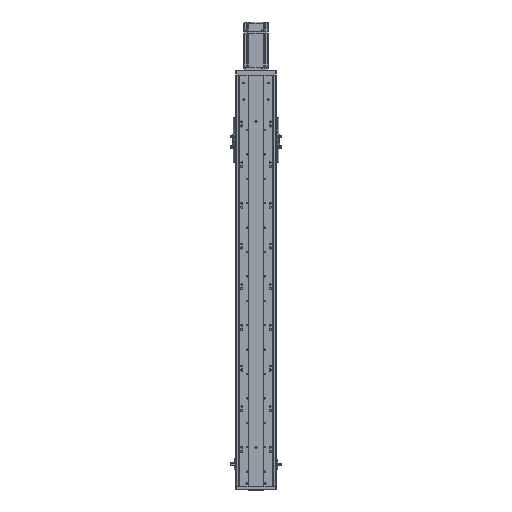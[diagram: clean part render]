
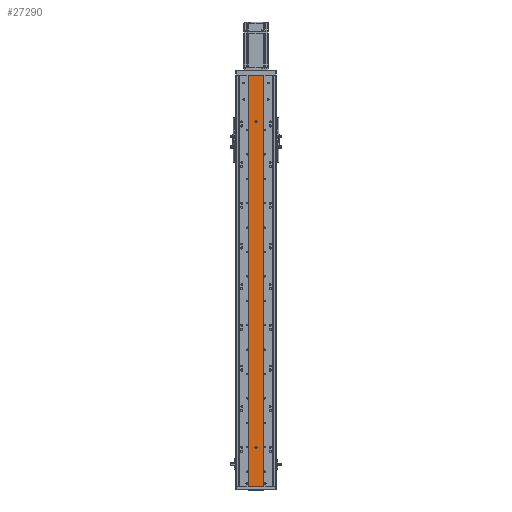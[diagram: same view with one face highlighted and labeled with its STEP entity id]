
A CAD part, top view. The second image highlights one B-rep face of the part: STEP entity #27290.
In plain terms, the highlighted planar face has unit normal (0, 0, 1).
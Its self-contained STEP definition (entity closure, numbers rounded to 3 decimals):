
#402 = CIRCLE ( 'NONE', #37312, 2.5 ) ;
#417 = CIRCLE ( 'NONE', #37303, 2.5 ) ;
#712 = CARTESIAN_POINT ( 'NONE',  ( -10645.079, 1012., -17040.86 ) ) ;
#723 = PLANE ( 'NONE',  #37065 ) ;
#736 = DIRECTION ( 'NONE',  ( 0., 0., -1. ) ) ;
#751 = DIRECTION ( 'NONE',  ( -1., 0., 0. ) ) ;
#5461 = CARTESIAN_POINT ( 'NONE',  ( -10645.079, 0., -17040.86 ) ) ;
#5463 = CARTESIAN_POINT ( 'NONE',  ( -10607.079, 0., -17040.86 ) ) ;
#5474 = CARTESIAN_POINT ( 'NONE',  ( -10645.079, 1012., -17040.86 ) ) ;
#5555 = CARTESIAN_POINT ( 'NONE',  ( -10607.079, 1012., -17040.86 ) ) ;
#6037 = ORIENTED_EDGE ( 'NONE', *, *, #22831, .F. ) ;
#6098 = ORIENTED_EDGE ( 'NONE', *, *, #22757, .T. ) ;
#6099 = ORIENTED_EDGE ( 'NONE', *, *, #22793, .T. ) ;
#6107 = ORIENTED_EDGE ( 'NONE', *, *, #22801, .F. ) ;
#6115 = ORIENTED_EDGE ( 'NONE', *, *, #34556, .T. ) ;
#6141 = ORIENTED_EDGE ( 'NONE', *, *, #34540, .T. ) ;
#6156 = ORIENTED_EDGE ( 'NONE', *, *, #22809, .T. ) ;
#6157 = ORIENTED_EDGE ( 'NONE', *, *, #22820, .T. ) ;
#7345 = CARTESIAN_POINT ( 'NONE',  ( -10623.579, 897., -17040.86 ) ) ;
#7478 = CARTESIAN_POINT ( 'NONE',  ( -10628.579, 897., -17040.86 ) ) ;
#7566 = CARTESIAN_POINT ( 'NONE',  ( -10623.579, 97., -17040.86 ) ) ;
#7576 = CARTESIAN_POINT ( 'NONE',  ( -10628.579, 97., -17040.86 ) ) ;
#9096 = VERTEX_POINT ( 'NONE', #7345 ) ;
#9117 = VERTEX_POINT ( 'NONE', #7478 ) ;
#9231 = VERTEX_POINT ( 'NONE', #7566 ) ;
#9282 = VERTEX_POINT ( 'NONE', #7576 ) ;
#11628 = EDGE_LOOP ( 'NONE', ( #6115, #6156 ) ) ;
#11630 = EDGE_LOOP ( 'NONE', ( #6141, #6157 ) ) ;
#11655 = EDGE_LOOP ( 'NONE', ( #6098, #6037, #6107, #6099 ) ) ;
#14686 = DIRECTION ( 'NONE',  ( 1., 0., 0. ) ) ;
#14700 = CARTESIAN_POINT ( 'NONE',  ( -10645.079, 0., -17040.86 ) ) ;
#14771 = CARTESIAN_POINT ( 'NONE',  ( -10645.079, 1012., -17040.86 ) ) ;
#14783 = DIRECTION ( 'NONE',  ( 0., -1., 0. ) ) ;
#14795 = DIRECTION ( 'NONE',  ( 1., 0., 0. ) ) ;
#14814 = CARTESIAN_POINT ( 'NONE',  ( -10645.079, 1012., -17040.86 ) ) ;
#14849 = CARTESIAN_POINT ( 'NONE',  ( -10626.079, 97., -17040.86 ) ) ;
#14852 = DIRECTION ( 'NONE',  ( 0., 0., -1. ) ) ;
#14865 = DIRECTION ( 'NONE',  ( -1., 0., 0. ) ) ;
#14868 = CARTESIAN_POINT ( 'NONE',  ( -10607.079, 1012., -17040.86 ) ) ;
#14874 = CARTESIAN_POINT ( 'NONE',  ( -10626.079, 897., -17040.86 ) ) ;
#14889 = DIRECTION ( 'NONE',  ( 0., 0., -1. ) ) ;
#14900 = DIRECTION ( 'NONE',  ( 0., -1., 0. ) ) ;
#14901 = DIRECTION ( 'NONE',  ( -1., 0., 0. ) ) ;
#22757 = EDGE_CURVE ( 'NONE', #23679, #23682, #29800, .T. ) ;
#22793 = EDGE_CURVE ( 'NONE', #23698, #23679, #29845, .T. ) ;
#22801 = EDGE_CURVE ( 'NONE', #23698, #23715, #28636, .T. ) ;
#22809 = EDGE_CURVE ( 'NONE', #9282, #9231, #28612, .T. ) ;
#22820 = EDGE_CURVE ( 'NONE', #9117, #9096, #28648, .T. ) ;
#22831 = EDGE_CURVE ( 'NONE', #23715, #23682, #28628, .T. ) ;
#23679 = VERTEX_POINT ( 'NONE', #5461 ) ;
#23682 = VERTEX_POINT ( 'NONE', #5463 ) ;
#23698 = VERTEX_POINT ( 'NONE', #5474 ) ;
#23715 = VERTEX_POINT ( 'NONE', #5555 ) ;
#26860 = CARTESIAN_POINT ( 'NONE',  ( -10626.079, 897., -17040.86 ) ) ;
#26865 = DIRECTION ( 'NONE',  ( 0., 0., -1. ) ) ;
#26866 = DIRECTION ( 'NONE',  ( -1., 0., 0. ) ) ;
#26911 = CARTESIAN_POINT ( 'NONE',  ( -10626.079, 97., -17040.86 ) ) ;
#26915 = DIRECTION ( 'NONE',  ( -1., 0., 0. ) ) ;
#26919 = DIRECTION ( 'NONE',  ( 0., 0., -1. ) ) ;
#27290 = ADVANCED_FACE ( 'NONE', ( #31723, #31711, #31716 ), #723, .F. ) ;
#28612 = CIRCLE ( 'NONE', #36787, 2.5 ) ;
#28628 = LINE ( 'NONE', #14868, #28634 ) ;
#28632 = VECTOR ( 'NONE', #14795, 1000. ) ;
#28634 = VECTOR ( 'NONE', #14900, 1000. ) ;
#28636 = LINE ( 'NONE', #14814, #28632 ) ;
#28648 = CIRCLE ( 'NONE', #36771, 2.5 ) ;
#29654 = VECTOR ( 'NONE', #14783, 1000. ) ;
#29765 = VECTOR ( 'NONE', #14686, 1000. ) ;
#29800 = LINE ( 'NONE', #14700, #29765 ) ;
#29845 = LINE ( 'NONE', #14771, #29654 ) ;
#31711 = FACE_BOUND ( 'NONE', #11628, .T. ) ;
#31716 = FACE_OUTER_BOUND ( 'NONE', #11655, .T. ) ;
#31723 = FACE_BOUND ( 'NONE', #11630, .T. ) ;
#34540 = EDGE_CURVE ( 'NONE', #9096, #9117, #402, .T. ) ;
#34556 = EDGE_CURVE ( 'NONE', #9231, #9282, #417, .T. ) ;
#36771 = AXIS2_PLACEMENT_3D ( 'NONE', #14874, #14889, #14901 ) ;
#36787 = AXIS2_PLACEMENT_3D ( 'NONE', #14849, #14852, #14865 ) ;
#37065 = AXIS2_PLACEMENT_3D ( 'NONE', #712, #736, #751 ) ;
#37303 = AXIS2_PLACEMENT_3D ( 'NONE', #26911, #26919, #26915 ) ;
#37312 = AXIS2_PLACEMENT_3D ( 'NONE', #26860, #26865, #26866 ) ;
